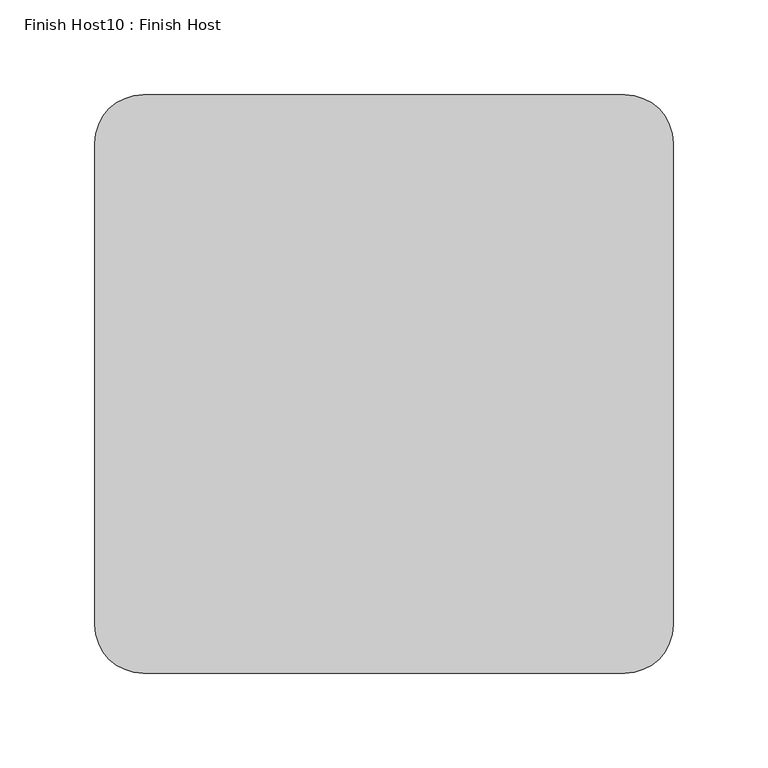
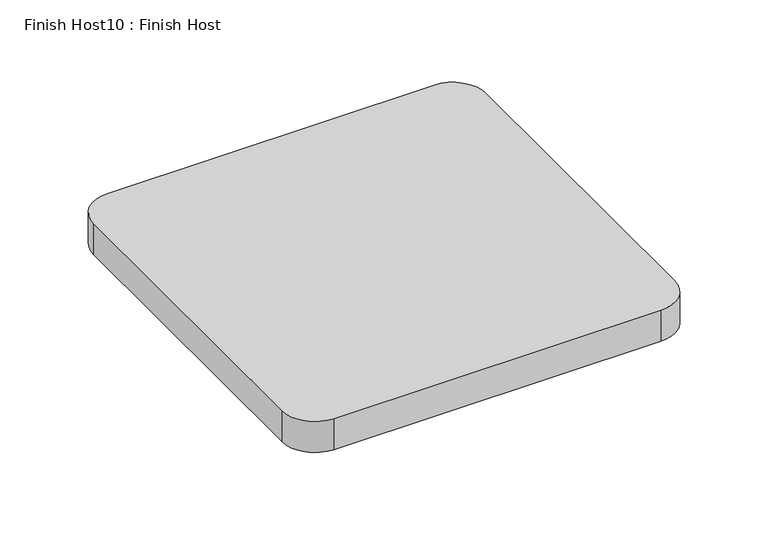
"""IFC4 building model written with IfcOpenShell, lengths in millimetres: proxy geometry, Finish Host10 : Finish Host."""

from ifc_helpers import new_model, si_unit, point, frame_2d, origin, origin_with_axes, place, context, project, spatial, polyline, circle_curve, trimmed, segment, composite_curve, outline, extrude, source, transform, mapped, element, save


def finish_host10_finish_host_ea2229f9(model_context):
    return source(origin(), model_context, "Body", "SweptSolid", [
        extrude(outline(composite_curve([segment(polyline([(3477.0934426, 3188.0122951), (3477.0934426, 3442.0122951)]), True, "CONTINUOUS"), segment(trimmed(circle_curve(frame_2d((3502.4934426, 3442.0122951)), 25.4), [point((3477.0934426, 3442.0122951))], [point((3502.4934426, 3467.4122951))], False, "CARTESIAN"), True, "CONTINUOUS"), segment(polyline([(3502.4934426, 3467.4122951), (3756.4934426, 3467.4122951)]), True, "CONTINUOUS"), segment(trimmed(circle_curve(frame_2d((3756.4934426, 3442.0122951)), 25.4), [point((3756.4934426, 3467.4122951))], [point((3781.8934426, 3442.0122951))], False, "CARTESIAN"), True, "CONTINUOUS"), segment(polyline([(3781.8934426, 3442.0122951), (3781.8934426, 3188.0122951)]), True, "CONTINUOUS"), segment(trimmed(circle_curve(frame_2d((3756.4934426, 3188.0122951)), 25.4), [point((3781.8934426, 3188.0122951))], [point((3756.4934426, 3162.6122951))], False, "CARTESIAN"), True, "CONTINUOUS"), segment(polyline([(3756.4934426, 3162.6122951), (3502.4934426, 3162.6122951)]), True, "CONTINUOUS"), segment(trimmed(circle_curve(frame_2d((3502.4934426, 3188.0122951)), 25.4), [point((3502.4934426, 3162.6122951))], [point((3477.0934426, 3188.0122951))], False, "CARTESIAN"), True, "CONTINUOUS")], self_intersect=False)), origin_with_axes(), (0.0, 0.0, 1.0), 25.4),
    ])


if __name__ == "__main__":
    model = new_model("IFC4")
    model_context = context("Model", 3, world=origin())
    ifc_project = project(units=[si_unit("LENGTHUNIT", "METRE", prefix="MILLI")], contexts=[model_context])
    site = spatial("IfcSite", under=ifc_project)
    building = spatial("IfcBuilding", under=site)
    placement = place(None, origin())
    finish_host10_finish_host_shape = finish_host10_finish_host_ea2229f9(model_context)
    element("IfcBuildingElementProxy", 1, Name="Finish Host10 : Finish Host", ObjectType="Finish Host10 : Finish Host", at=placement, inside=building, context=model_context, shape_type="MappedRepresentation", body=[
        mapped(finish_host10_finish_host_shape, transform((0.0, 0.0, 0.0), x_axis=(1.0, 0.0, 0.0), y_axis=(0.0, 1.0, 0.0), z_axis=(0.0, 0.0, 1.0))),
    ])
    save(model, "model.ifc")
